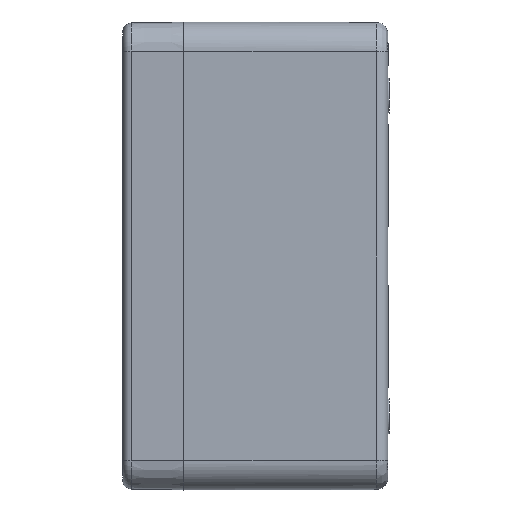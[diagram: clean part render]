
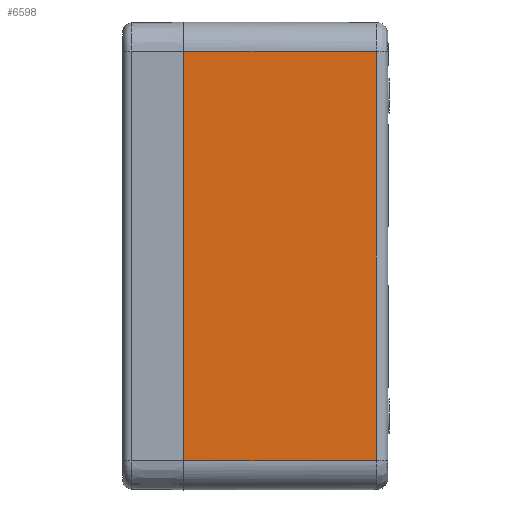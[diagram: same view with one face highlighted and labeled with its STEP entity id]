
A CAD part, left-side view. The second image highlights one B-rep face of the part: STEP entity #6598.
In plain terms, the highlighted planar face has unit normal (-1, -0.002, 0).
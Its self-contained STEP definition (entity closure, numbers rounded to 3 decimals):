
#546=CARTESIAN_POINT('',(-80.25,0.,-70.25));
#598=CARTESIAN_POINT('',(-80.25,0.,70.25));
#611=DIRECTION('',(0.,0.,-1.));
#612=VECTOR('',#611,140.5);
#613=CARTESIAN_POINT('',(-80.25,0.,70.25));
#614=LINE('',#613,#612);
#2745=DIRECTION('',(0.,0.,1.));
#2746=VECTOR('',#2745,140.217);
#2747=CARTESIAN_POINT('',(-80.109,-66.009,
-70.109));
#2748=LINE('',#2747,#2746);
#2794=DIRECTION('',(-0.002,1.,-0.002));
#2795=VECTOR('',#2794,66.009);
#2796=CARTESIAN_POINT('',(-80.109,-66.009,
-70.109));
#2797=LINE('',#2796,#2795);
#2801=DIRECTION('',(-0.002,1.,0.002));
#2802=VECTOR('',#2801,66.009);
#2803=CARTESIAN_POINT('',(-80.109,-66.009,
70.109));
#2804=LINE('',#2803,#2802);
#2808=CARTESIAN_POINT('',(-80.109,-66.009,
-70.109));
#2919=CARTESIAN_POINT('',(-80.109,-66.009,
70.109));
#3748=VERTEX_POINT('',#546);
#3753=VERTEX_POINT('',#598);
#3757=VERTEX_POINT('',#2808);
#3774=VERTEX_POINT('',#2919);
#6585=CARTESIAN_POINT('',(-80.175,-35.,0.));
#6586=DIRECTION('',(1.,0.002,0.));
#6587=DIRECTION('',(-0.002,1.,0.));
#6588=AXIS2_PLACEMENT_3D('',#6585,#6586,#6587);
#6589=PLANE('',#6588);
#6590=ORIENTED_EDGE('',*,*,#6545,.F.);
#6592=ORIENTED_EDGE('',*,*,#6591,.T.);
#6593=ORIENTED_EDGE('',*,*,#4256,.F.);
#6595=ORIENTED_EDGE('',*,*,#6594,.F.);
#6596=EDGE_LOOP('',(#6590,#6592,#6593,#6595));
#6597=FACE_OUTER_BOUND('',#6596,.F.);
#4256=EDGE_CURVE('',#3753,#3748,#614,.T.);
#6545=EDGE_CURVE('',#3757,#3774,#2748,.T.);
#6591=EDGE_CURVE('',#3757,#3748,#2797,.T.);
#6594=EDGE_CURVE('',#3774,#3753,#2804,.T.);
#6598=ADVANCED_FACE('',(#6597),#6589,.F.);
